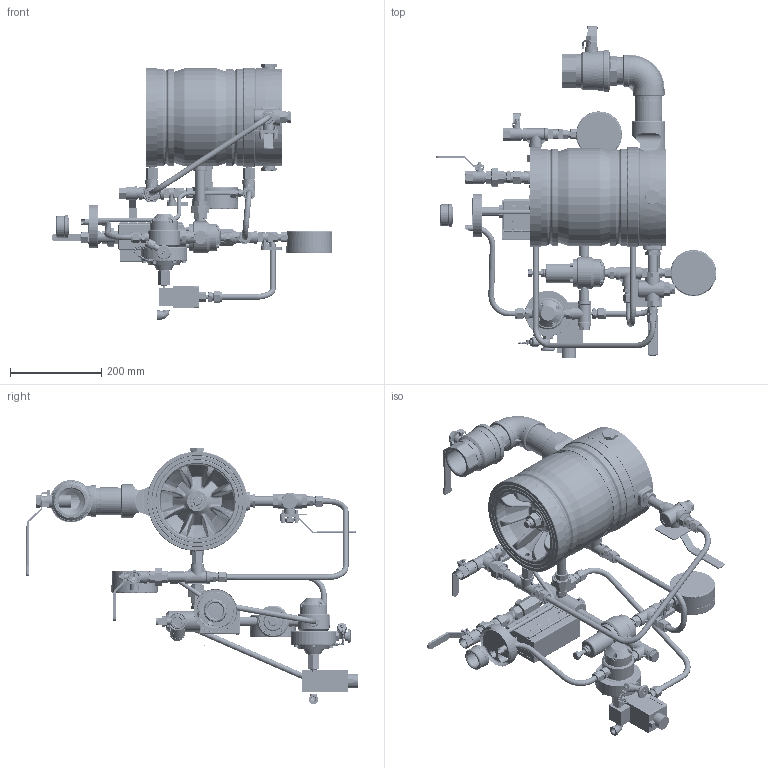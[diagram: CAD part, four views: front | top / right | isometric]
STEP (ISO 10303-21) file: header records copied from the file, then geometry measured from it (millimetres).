
FILE_DESCRIPTION(/* description */ (''),/* implementation_level */ '2;1');
FILE_NAME(/* name */ '799DX-04CR05 FM Trim 6in STEP.stp',/* time_stamp */ '2025-03-25T13:14:59+02:00',/* author */ ('alex'),/* organization */ (''),/* preprocessor_version */ 'ST-DEVELOPER v20',/* originating_system */ 'Autodesk Inventor 2024',/* authorisation */ '');
FILE_SCHEMA (('AUTOMOTIVE_DESIGN { 1 0 10303 214 3 1 1 }'));
Length unit declared in the file: millimetre
Products named in the file (1): 799DX-04CR05 FM Trim 6in STEP
Bounding box: 615.01 x 726.12 x 561.45 mm (x, y, z)
Volume: 8000048 mm3; surface area: 1963213.8 mm2
Topology: 8 solids, 87 shells, 6227 faces, 15609 edges, 9863 vertices
Faces by surface type: plane 2880, cone 1286, cylinder 1229, bspline 560, torus 244, sphere 28
Full cylindrical faces by diameter (mm): 1.2 x10, 1.5 x1, 2 x7, 3 x3, 3.242 x1, 4 x15, 4.1 x2, 4.134 x23, 4.2 x6, 5 x48, 5.2 x20, 5.25 x2, 5.5 x5, 5.8 x4, 6 x6, 6.33 x4, 6.4 x4, 6.6 x2, 6.604 x1, 6.88 x2, 7 x10, 7.036 x3, 7.3 x1, 7.5 x1, 7.515 x4, 7.6 x2, 8 x4, 8.1 x1, 8.5 x24, 8.6 x4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
Entity records: 211149 total; most frequent: CARTESIAN_POINT 62798, ORIENTED_EDGE 30932, DIRECTION 28164, EDGE_CURVE 15466, AXIS2_PLACEMENT_3D 10686, VERTEX_POINT 9842, EDGE_LOOP 7081, LINE 6792
